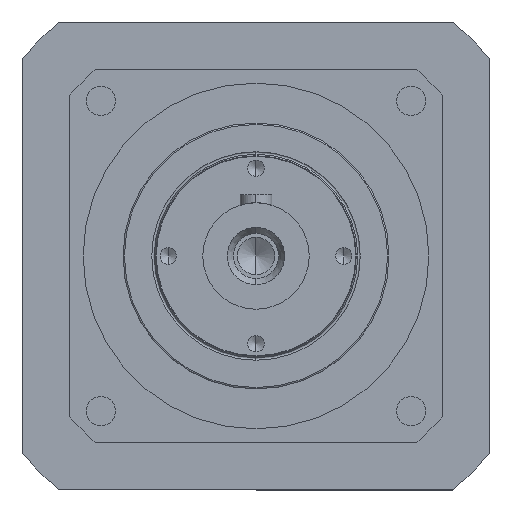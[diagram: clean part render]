
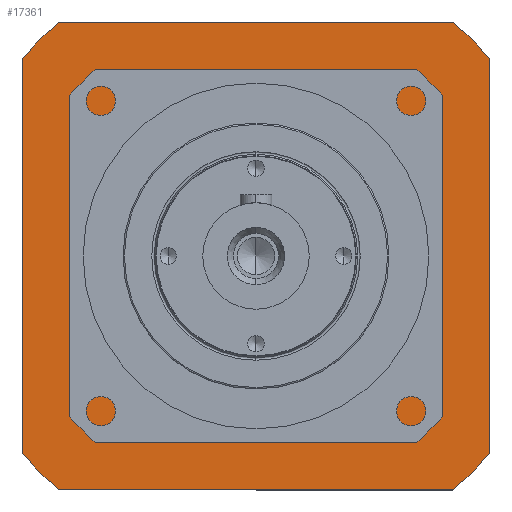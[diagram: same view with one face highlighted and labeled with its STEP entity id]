
A CAD part, left-side view. The second image highlights one B-rep face of the part: STEP entity #17361.
In plain terms, the highlighted planar face has unit normal (-1, 0, 0) as drawn and (0, 0, 1) by its records, which use the part's own axes.
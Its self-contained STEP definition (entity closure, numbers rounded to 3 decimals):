
#86 = ORIENTED_EDGE ( 'NONE', *, *, #11105, .F. ) ;
#93 = CARTESIAN_POINT ( 'NONE',  ( -74.034, 88., 0. ) ) ;
#338 = CARTESIAN_POINT ( 'NONE',  ( -88., -74.034, 0. ) ) ;
#612 = EDGE_CURVE ( 'NONE', #10946, #22026, #19674, .T. ) ;
#2389 = ORIENTED_EDGE ( 'NONE', *, *, #20531, .F. ) ;
#3538 = VERTEX_POINT ( 'NONE', #31778 ) ;
#3553 = ORIENTED_EDGE ( 'NONE', *, *, #7440, .F. ) ;
#3590 = CARTESIAN_POINT ( 'NONE',  ( -74.034, -88., 0. ) ) ;
#3746 = VERTEX_POINT ( 'NONE', #36529 ) ;
#3763 = DIRECTION ( 'NONE',  ( 0., 0., -1. ) ) ;
#4215 = CARTESIAN_POINT ( 'NONE',  ( 62.5, 0., 0. ) ) ;
#5917 = AXIS2_PLACEMENT_3D ( 'NONE', #17660, #17533, #17400 ) ;
#6168 = CARTESIAN_POINT ( 'NONE',  ( 0., 0., 0. ) ) ;
#6655 = ORIENTED_EDGE ( 'NONE', *, *, #32677, .F. ) ;
#7329 = CIRCLE ( 'NONE', #10063, 115. ) ;
#7336 = EDGE_CURVE ( 'NONE', #37191, #15809, #37802, .T. ) ;
#7440 = EDGE_CURVE ( 'NONE', #32989, #37191, #13861, .T. ) ;
#7651 = CARTESIAN_POINT ( 'NONE',  ( 74.034, 88., 0. ) ) ;
#8825 = DIRECTION ( 'NONE',  ( 0., -1., 0. ) ) ;
#9009 = EDGE_LOOP ( 'NONE', ( #3553, #18294, #25756, #27562, #29060, #6655, #86, #26093 ) ) ;
#9243 = DIRECTION ( 'NONE',  ( 1., 0., 0. ) ) ;
#9765 = CARTESIAN_POINT ( 'NONE',  ( 88., 88., 0. ) ) ;
#10063 = AXIS2_PLACEMENT_3D ( 'NONE', #10680, #31457, #13758 ) ;
#10680 = CARTESIAN_POINT ( 'NONE',  ( 0., 0., 0. ) ) ;
#10946 = VERTEX_POINT ( 'NONE', #11162 ) ;
#11105 = EDGE_CURVE ( 'NONE', #15809, #3746, #35554, .T. ) ;
#11162 = CARTESIAN_POINT ( 'NONE',  ( 74.034, -88., 0. ) ) ;
#11852 = VERTEX_POINT ( 'NONE', #34673 ) ;
#12832 = AXIS2_PLACEMENT_3D ( 'NONE', #32819, #32695, #32575 ) ;
#13758 = DIRECTION ( 'NONE',  ( 1., 0., 0. ) ) ;
#13861 = LINE ( 'NONE', #28615, #14093 ) ;
#14093 = VECTOR ( 'NONE', #28485, 1000. ) ;
#14136 = CIRCLE ( 'NONE', #5917, 62.5 ) ;
#14227 = CIRCLE ( 'NONE', #14458, 115. ) ;
#14458 = AXIS2_PLACEMENT_3D ( 'NONE', #21787, #3763, #24769 ) ;
#14705 = DIRECTION ( 'NONE',  ( -1., 0., 0. ) ) ;
#14783 = DIRECTION ( 'NONE',  ( 0., 0., -1. ) ) ;
#14831 = PLANE ( 'NONE',  #35804 ) ;
#15809 = VERTEX_POINT ( 'NONE', #29175 ) ;
#15997 = CARTESIAN_POINT ( 'NONE',  ( 0., 62.5, 0. ) ) ;
#17361 = ADVANCED_FACE ( 'NONE', ( #22532, #23211 ), #14831, .F. ) ;
#17400 = DIRECTION ( 'NONE',  ( 1., 0., 0. ) ) ;
#17533 = DIRECTION ( 'NONE',  ( 0., 0., 1. ) ) ;
#17660 = CARTESIAN_POINT ( 'NONE',  ( 0., 0., 0. ) ) ;
#17661 = DIRECTION ( 'NONE',  ( 1., 0., 0. ) ) ;
#17699 = DIRECTION ( 'NONE',  ( 0., 0., -1. ) ) ;
#17748 = CARTESIAN_POINT ( 'NONE',  ( 0., 0., 0. ) ) ;
#17893 = CIRCLE ( 'NONE', #32874, 115. ) ;
#17918 = ORIENTED_EDGE ( 'NONE', *, *, #28823, .F. ) ;
#18294 = ORIENTED_EDGE ( 'NONE', *, *, #23411, .F. ) ;
#19200 = EDGE_CURVE ( 'NONE', #22026, #37380, #17893, .T. ) ;
#19674 = LINE ( 'NONE', #34234, #21352 ) ;
#19843 = VERTEX_POINT ( 'NONE', #4215 ) ;
#20324 = EDGE_LOOP ( 'NONE', ( #2389, #17918 ) ) ;
#20531 = EDGE_CURVE ( 'NONE', #19843, #11852, #14136, .T. ) ;
#21352 = VECTOR ( 'NONE', #34301, 1000. ) ;
#21787 = CARTESIAN_POINT ( 'NONE',  ( 0., 0., 0. ) ) ;
#22026 = VERTEX_POINT ( 'NONE', #3590 ) ;
#22532 = FACE_BOUND ( 'NONE', #20324, .T. ) ;
#23211 = FACE_OUTER_BOUND ( 'NONE', #9009, .T. ) ;
#23411 = EDGE_CURVE ( 'NONE', #3538, #32989, #7329, .T. ) ;
#24431 = CARTESIAN_POINT ( 'NONE',  ( -88., 88., 0. ) ) ;
#24769 = DIRECTION ( 'NONE',  ( 1., 0., 0. ) ) ;
#25402 = VECTOR ( 'NONE', #27400, 1000. ) ;
#25756 = ORIENTED_EDGE ( 'NONE', *, *, #26283, .F. ) ;
#25777 = LINE ( 'NONE', #24431, #25402 ) ;
#26093 = ORIENTED_EDGE ( 'NONE', *, *, #7336, .F. ) ;
#26283 = EDGE_CURVE ( 'NONE', #37380, #3538, #25777, .T. ) ;
#27202 = DIRECTION ( 'NONE',  ( 0., 0., 1. ) ) ;
#27400 = DIRECTION ( 'NONE',  ( 0., 1., 0. ) ) ;
#27437 = CIRCLE ( 'NONE', #28553, 62.5 ) ;
#27562 = ORIENTED_EDGE ( 'NONE', *, *, #19200, .F. ) ;
#28485 = DIRECTION ( 'NONE',  ( 1., 0., 0. ) ) ;
#28553 = AXIS2_PLACEMENT_3D ( 'NONE', #6168, #27202, #9243 ) ;
#28615 = CARTESIAN_POINT ( 'NONE',  ( -88., 88., 0. ) ) ;
#28823 = EDGE_CURVE ( 'NONE', #11852, #19843, #27437, .T. ) ;
#29060 = ORIENTED_EDGE ( 'NONE', *, *, #612, .F. ) ;
#29175 = CARTESIAN_POINT ( 'NONE',  ( 88., 74.034, 0. ) ) ;
#31457 = DIRECTION ( 'NONE',  ( 0., 0., -1. ) ) ;
#31778 = CARTESIAN_POINT ( 'NONE',  ( -88., 74.034, 0. ) ) ;
#32575 = DIRECTION ( 'NONE',  ( 1., 0., 0. ) ) ;
#32677 = EDGE_CURVE ( 'NONE', #3746, #10946, #14227, .T. ) ;
#32695 = DIRECTION ( 'NONE',  ( 0., 0., -1. ) ) ;
#32819 = CARTESIAN_POINT ( 'NONE',  ( 0., 0., 0. ) ) ;
#32874 = AXIS2_PLACEMENT_3D ( 'NONE', #17748, #17699, #17661 ) ;
#32989 = VERTEX_POINT ( 'NONE', #93 ) ;
#34234 = CARTESIAN_POINT ( 'NONE',  ( -88., -88., 0. ) ) ;
#34301 = DIRECTION ( 'NONE',  ( -1., 0., 0. ) ) ;
#34673 = CARTESIAN_POINT ( 'NONE',  ( -62.5, 0., 0. ) ) ;
#35554 = LINE ( 'NONE', #9765, #36216 ) ;
#35804 = AXIS2_PLACEMENT_3D ( 'NONE', #15997, #14783, #14705 ) ;
#36216 = VECTOR ( 'NONE', #8825, 1000. ) ;
#36529 = CARTESIAN_POINT ( 'NONE',  ( 88., -74.034, 0. ) ) ;
#37191 = VERTEX_POINT ( 'NONE', #7651 ) ;
#37380 = VERTEX_POINT ( 'NONE', #338 ) ;
#37802 = CIRCLE ( 'NONE', #12832, 115. ) ;
